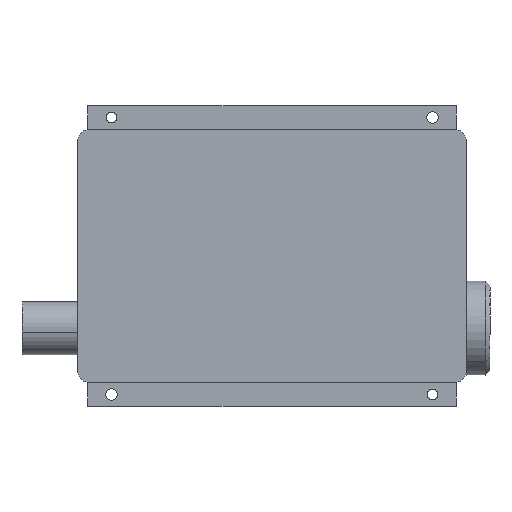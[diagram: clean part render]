
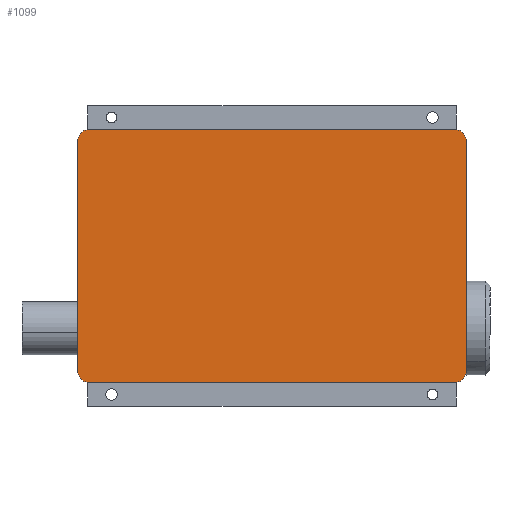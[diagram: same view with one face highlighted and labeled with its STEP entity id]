
A CAD part, front view. The second image highlights one B-rep face of the part: STEP entity #1099.
In plain terms, the highlighted planar face has unit normal (0, -1, 0).
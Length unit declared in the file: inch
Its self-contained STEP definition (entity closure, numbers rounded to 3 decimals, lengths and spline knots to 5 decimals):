
#67 = VERTEX_POINT ( 'NONE', #7048 ) ;
#203 = PLANE ( 'NONE',  #5780 ) ;
#248 = DIRECTION ( 'NONE',  ( 0., 0., 1. ) ) ;
#258 = EDGE_CURVE ( 'NONE', #349, #9514, #5097, .T. ) ;
#323 = EDGE_CURVE ( 'NONE', #8112, #454, #3526, .T. ) ;
#349 = VERTEX_POINT ( 'NONE', #2029 ) ;
#454 = VERTEX_POINT ( 'NONE', #1848 ) ;
#458 = AXIS2_PLACEMENT_3D ( 'NONE', #9615, #6671, #4487 ) ;
#461 = DIRECTION ( 'NONE',  ( 0., 1., 0. ) ) ;
#543 = VECTOR ( 'NONE', #6559, 39.37008 ) ;
#558 = ORIENTED_EDGE ( 'NONE', *, *, #932, .F. ) ;
#697 = CIRCLE ( 'NONE', #7267, 0.25 ) ;
#932 = EDGE_CURVE ( 'NONE', #67, #349, #8379, .T. ) ;
#994 = CARTESIAN_POINT ( 'NONE',  ( 0.89375, -1.15625, 2.286 ) ) ;
#1008 = DIRECTION ( 'NONE',  ( 0., 1., 0. ) ) ;
#1099 = ADVANCED_FACE ( 'NONE', ( #3761 ), #203, .F. ) ;
#1106 = DIRECTION ( 'NONE',  ( 0., 1., 0. ) ) ;
#1340 = VECTOR ( 'NONE', #7486, 39.37008 ) ;
#1433 = CIRCLE ( 'NONE', #5512, 0.25 ) ;
#1618 = CARTESIAN_POINT ( 'NONE',  ( -7.10625, -1.15625, 2.286 ) ) ;
#1844 = ORIENTED_EDGE ( 'NONE', *, *, #9580, .F. ) ;
#1848 = CARTESIAN_POINT ( 'NONE',  ( 1.14375, -1.15625, -2.589 ) ) ;
#2029 = CARTESIAN_POINT ( 'NONE',  ( -7.10625, -1.15625, -2.589 ) ) ;
#2061 = ORIENTED_EDGE ( 'NONE', *, *, #258, .F. ) ;
#2645 = DIRECTION ( 'NONE',  ( 0., 0., -1. ) ) ;
#2971 = EDGE_CURVE ( 'NONE', #3387, #7912, #3221, .T. ) ;
#3221 = LINE ( 'NONE', #5760, #543 ) ;
#3387 = VERTEX_POINT ( 'NONE', #7194 ) ;
#3418 = VERTEX_POINT ( 'NONE', #3433 ) ;
#3433 = CARTESIAN_POINT ( 'NONE',  ( 0.89375, -1.15625, -2.839 ) ) ;
#3481 = EDGE_CURVE ( 'NONE', #9514, #3387, #6869, .T. ) ;
#3526 = LINE ( 'NONE', #7420, #1340 ) ;
#3550 = CARTESIAN_POINT ( 'NONE',  ( -6.85625, -1.15625, -2.589 ) ) ;
#3761 = FACE_OUTER_BOUND ( 'NONE', #6772, .T. ) ;
#4059 = DIRECTION ( 'NONE',  ( 0., 0., -1. ) ) ;
#4232 = DIRECTION ( 'NONE',  ( 0., 0., -1. ) ) ;
#4487 = DIRECTION ( 'NONE',  ( 0., 0., -1. ) ) ;
#4632 = DIRECTION ( 'NONE',  ( 0., 1., 0. ) ) ;
#4656 = ORIENTED_EDGE ( 'NONE', *, *, #7886, .F. ) ;
#4908 = AXIS2_PLACEMENT_3D ( 'NONE', #3550, #461, #4232 ) ;
#5019 = CARTESIAN_POINT ( 'NONE',  ( 0.89375, -1.15625, 2.286 ) ) ;
#5097 = LINE ( 'NONE', #8830, #10086 ) ;
#5453 = ORIENTED_EDGE ( 'NONE', *, *, #2971, .F. ) ;
#5512 = AXIS2_PLACEMENT_3D ( 'NONE', #5621, #1008, #4059 ) ;
#5621 = CARTESIAN_POINT ( 'NONE',  ( 0.89375, -1.15625, -2.589 ) ) ;
#5760 = CARTESIAN_POINT ( 'NONE',  ( -6.85625, -1.15625, 2.536 ) ) ;
#5780 = AXIS2_PLACEMENT_3D ( 'NONE', #994, #4632, #6441 ) ;
#6441 = DIRECTION ( 'NONE',  ( 0., 0., -1. ) ) ;
#6559 = DIRECTION ( 'NONE',  ( 1., 0., 0. ) ) ;
#6671 = DIRECTION ( 'NONE',  ( 0., 1., 0. ) ) ;
#6772 = EDGE_LOOP ( 'NONE', ( #7434, #5453, #7110, #2061, #558, #4656, #1844, #8405 ) ) ;
#6869 = CIRCLE ( 'NONE', #458, 0.25 ) ;
#7048 = CARTESIAN_POINT ( 'NONE',  ( -6.85625, -1.15625, -2.839 ) ) ;
#7110 = ORIENTED_EDGE ( 'NONE', *, *, #3481, .F. ) ;
#7194 = CARTESIAN_POINT ( 'NONE',  ( -6.85625, -1.15625, 2.536 ) ) ;
#7267 = AXIS2_PLACEMENT_3D ( 'NONE', #5019, #1106, #2645 ) ;
#7361 = CARTESIAN_POINT ( 'NONE',  ( 0.89375, -1.15625, 2.536 ) ) ;
#7420 = CARTESIAN_POINT ( 'NONE',  ( 1.14375, -1.15625, 2.286 ) ) ;
#7434 = ORIENTED_EDGE ( 'NONE', *, *, #9892, .F. ) ;
#7486 = DIRECTION ( 'NONE',  ( 0., 0., -1. ) ) ;
#7886 = EDGE_CURVE ( 'NONE', #3418, #67, #8775, .T. ) ;
#7912 = VERTEX_POINT ( 'NONE', #7361 ) ;
#8112 = VERTEX_POINT ( 'NONE', #8997 ) ;
#8379 = CIRCLE ( 'NONE', #4908, 0.25 ) ;
#8405 = ORIENTED_EDGE ( 'NONE', *, *, #323, .F. ) ;
#8759 = DIRECTION ( 'NONE',  ( -1., 0., 0. ) ) ;
#8775 = LINE ( 'NONE', #9494, #9147 ) ;
#8830 = CARTESIAN_POINT ( 'NONE',  ( -7.10625, -1.15625, 2.286 ) ) ;
#8997 = CARTESIAN_POINT ( 'NONE',  ( 1.14375, -1.15625, 2.286 ) ) ;
#9147 = VECTOR ( 'NONE', #8759, 39.37008 ) ;
#9494 = CARTESIAN_POINT ( 'NONE',  ( -6.85625, -1.15625, -2.839 ) ) ;
#9514 = VERTEX_POINT ( 'NONE', #1618 ) ;
#9580 = EDGE_CURVE ( 'NONE', #454, #3418, #1433, .T. ) ;
#9615 = CARTESIAN_POINT ( 'NONE',  ( -6.85625, -1.15625, 2.286 ) ) ;
#9892 = EDGE_CURVE ( 'NONE', #7912, #8112, #697, .T. ) ;
#10086 = VECTOR ( 'NONE', #248, 39.37008 ) ;
